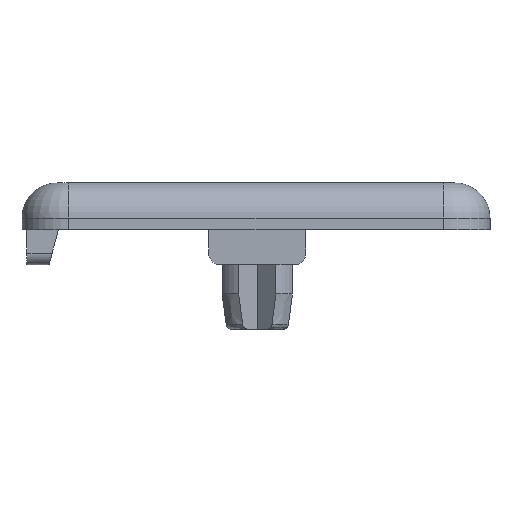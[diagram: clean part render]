
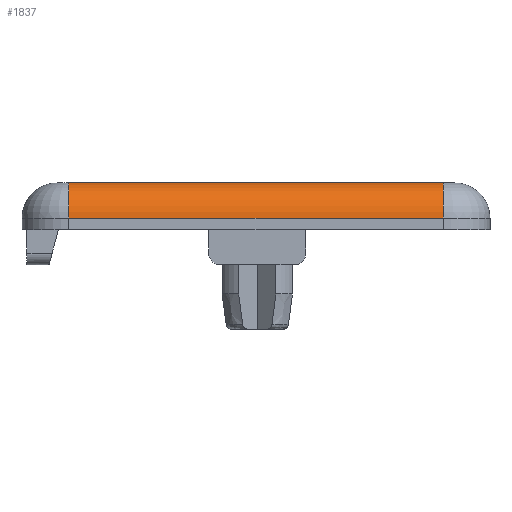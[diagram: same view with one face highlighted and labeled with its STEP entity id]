
A CAD part, front view. The second image highlights one B-rep face of the part: STEP entity #1837.
In plain terms, the highlighted cylindrical face has radius 3 mm (diameter 6 mm), a partial arc.
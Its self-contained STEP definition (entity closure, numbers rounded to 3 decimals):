
#22 = CARTESIAN_POINT ( 'NONE',  ( -16.125, -17.125, 0. ) ) ;
#54 = ORIENTED_EDGE ( 'NONE', *, *, #1552, .T. ) ;
#71 = AXIS2_PLACEMENT_3D ( 'NONE', #868, #1476, #584 ) ;
#85 = VERTEX_POINT ( 'NONE', #1253 ) ;
#115 = EDGE_CURVE ( 'NONE', #944, #1289, #1263, .T. ) ;
#128 = CIRCLE ( 'NONE', #891, 3. ) ;
#377 = EDGE_CURVE ( 'NONE', #1061, #85, #1676, .T. ) ;
#418 = AXIS2_PLACEMENT_3D ( 'NONE', #1241, #1726, #1410 ) ;
#584 = DIRECTION ( 'NONE',  ( 0., 1., 0. ) ) ;
#712 = CARTESIAN_POINT ( 'NONE',  ( 15.904, -17.125, 0. ) ) ;
#732 = ORIENTED_EDGE ( 'NONE', *, *, #115, .F. ) ;
#748 = CYLINDRICAL_SURFACE ( 'NONE', #71, 3. ) ;
#749 = ORIENTED_EDGE ( 'NONE', *, *, #1046, .T. ) ;
#868 = CARTESIAN_POINT ( 'NONE',  ( -16.125, -17.125, -3. ) ) ;
#891 = AXIS2_PLACEMENT_3D ( 'NONE', #1965, #1342, #1225 ) ;
#919 = CARTESIAN_POINT ( 'NONE',  ( -16.125, -20.125, -3. ) ) ;
#944 = VERTEX_POINT ( 'NONE', #1441 ) ;
#1046 = EDGE_CURVE ( 'NONE', #85, #1289, #128, .T. ) ;
#1061 = VERTEX_POINT ( 'NONE', #1520 ) ;
#1090 = DIRECTION ( 'NONE',  ( 1., 0., 0. ) ) ;
#1210 = FACE_OUTER_BOUND ( 'NONE', #1516, .T. ) ;
#1225 = DIRECTION ( 'NONE',  ( 0., 1., 0. ) ) ;
#1231 = DIRECTION ( 'NONE',  ( 1., 0., 0. ) ) ;
#1241 = CARTESIAN_POINT ( 'NONE',  ( -16.125, -17.125, -3. ) ) ;
#1253 = CARTESIAN_POINT ( 'NONE',  ( 15.904, -20.125, -3. ) ) ;
#1263 = LINE ( 'NONE', #22, #1524 ) ;
#1289 = VERTEX_POINT ( 'NONE', #712 ) ;
#1299 = VECTOR ( 'NONE', #1231, 1000. ) ;
#1342 = DIRECTION ( 'NONE',  ( -1., 0., 0. ) ) ;
#1410 = DIRECTION ( 'NONE',  ( 0., 1., 0. ) ) ;
#1441 = CARTESIAN_POINT ( 'NONE',  ( -16.125, -17.125, 0. ) ) ;
#1476 = DIRECTION ( 'NONE',  ( 1., 0., 0. ) ) ;
#1516 = EDGE_LOOP ( 'NONE', ( #54, #1925, #749, #732 ) ) ;
#1520 = CARTESIAN_POINT ( 'NONE',  ( -16.125, -20.125, -3. ) ) ;
#1524 = VECTOR ( 'NONE', #1090, 1000. ) ;
#1552 = EDGE_CURVE ( 'NONE', #944, #1061, #1572, .T. ) ;
#1572 = CIRCLE ( 'NONE', #418, 3. ) ;
#1676 = LINE ( 'NONE', #919, #1299 ) ;
#1726 = DIRECTION ( 'NONE',  ( 1., 0., 0. ) ) ;
#1837 = ADVANCED_FACE ( 'NONE', ( #1210 ), #748, .T. ) ;
#1925 = ORIENTED_EDGE ( 'NONE', *, *, #377, .T. ) ;
#1965 = CARTESIAN_POINT ( 'NONE',  ( 15.904, -17.125, -3. ) ) ;
